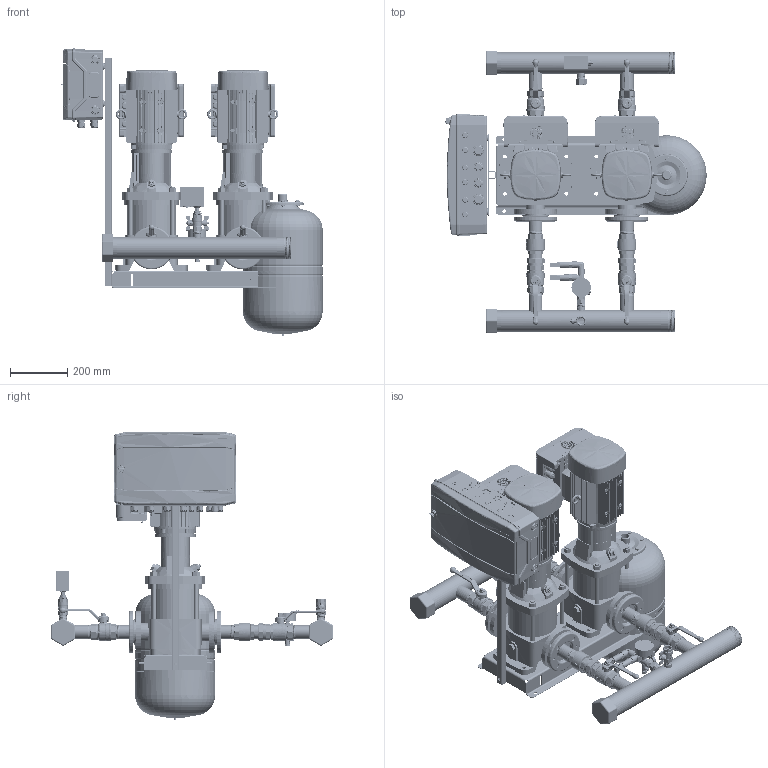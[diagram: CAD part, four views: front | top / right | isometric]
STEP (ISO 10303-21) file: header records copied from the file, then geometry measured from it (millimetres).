
FILE_DESCRIPTION(('CATIA V5 STEP Exchange','CAx-IF Rec.Pracs.--- Model Styling and Organization---1.4--- 2014-01-23','CAx-IF Rec.Pracs.---3D Tessellated Data Validation Properties---0.5---2014-09-14'),'2;1');
FILE_NAME('C:\Users\78432\YandexDisk\Drawings and 3D\3D Hydro Booster\Hydro-ME 3D\Hydro Models\Hydro ME 2 CRV10-xx\Hydro ME 2 CRVE10-4 (DIN).stp','2023-09-20T09:34:31+00:00',('none'),('none'),'CATIA Version 5-6 Release 2019 SP6','CATIA V5 STEP AP242 v1','none');
FILE_SCHEMA(('AP242_MANAGED_MODEL_BASED_3D_ENGINEERING_MIM_LF {1 0 10303 442 1 1 4}'));
Length unit declared in the file: millimetre
Products named in the file (49): Hydro ME 2 CRVE10-4 (DIN); 92051008; CRV10-4 Set (DIN); CRV 10-4_A_DIN_1.5kW; Base; Sleeve; Pumphead; Staybolt.1; Staybolt.2; Staybolt.3; Staybolt.4; Plug; AirVent; Motor; 00id2582; Adapter DN40-1,5" (96619634); 91040268; 91070086; 99110034; Hydraulica NY DN32 1,5 PN16; 92807557_9013-05; DN40_FM_LV_47.303.40; DN40_FF_LV_47.301; SAJ PDH30 0,75-2,2kW; 97941444; 405801; 405816; 91040267; 97941481; 00ID7527; Holder and CP 18mod; 92878909; Control ME (18mod); 2 sensors + manometer cpl.; manometr 16 bar; RPD-I-G1_2; 9021-01; 2070 1/2-1/2; _2020 1/2-1/2; 98594078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
Assembly tree (57 placements, depth 4):
  Hydro ME 2 CRVE10-4 (DIN)
    92051008
    CRV10-4 Set (DIN)  x2
      CRV 10-4_A_DIN_1.5kW
        Base
        Sleeve
        Pumphead
        Staybolt.1
        Staybolt.2
        Staybolt.3
        Staybolt.4
        Plug
        AirVent
        Motor
      00id2582
      Adapter DN40-1,5" (96619634)
        91040268
        91070086
        99110034
      Hydraulica NY DN32 1,5 PN16
      92807557_9013-05
      DN40_FM_LV_47.303.40
      DN40_FF_LV_47.301
      SAJ PDH30 0,75-2,2kW
    97941444  x2
      405801
      405816
      91040267
      97941481
    00ID7527  x2
    Holder and CP 18mod
      92878909
      Control ME (18mod)
    2 sensors + manometer cpl.
      manometr 16 bar
      RPD-I-G1_2  x2
      9021-01
      2070 1/2-1/2
      _2020 1/2-1/2
      98594078
    Tank 24L cpl.
      DN20_FF_BF_47.300.20
      9021-03
    Relay cpl.
      Relay RD-2R
      DN20_FF_BF_47.300.20
      2530 3/4-1/2
      _2530 1/2-1/4
    91078139
  WAV-24(D140 1'')
Bounding box: 916.82 x 989.22 x 1009.9 mm (x, y, z)
Volume: 65318389.6 mm3; surface area: 6832711.5 mm2
Topology: 174 solids, 202 shells, 24103 faces, 69140 edges, 46098 vertices
Faces by surface type: plane 9208, bspline 6230, cylinder 6177, cone 1679, torus 510, sphere 169, extrusion 130
Entity records: 656841 total; most frequent: CARTESIAN_POINT 330836, ORIENTED_EDGE 84316, EDGE_CURVE 42631, DIRECTION 37868, VERTEX_POINT 28369, B_SPLINE_CURVE_WITH_KNOTS 17472, VECTOR 17017, LINE 16952
